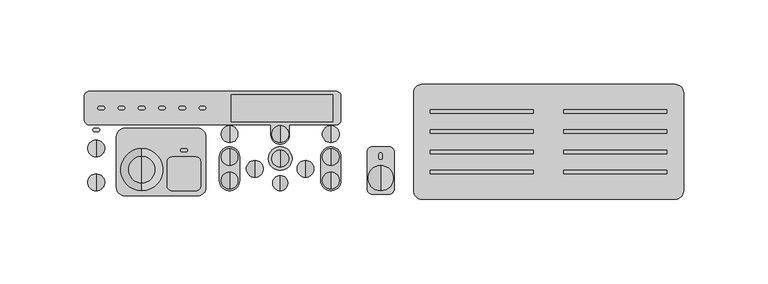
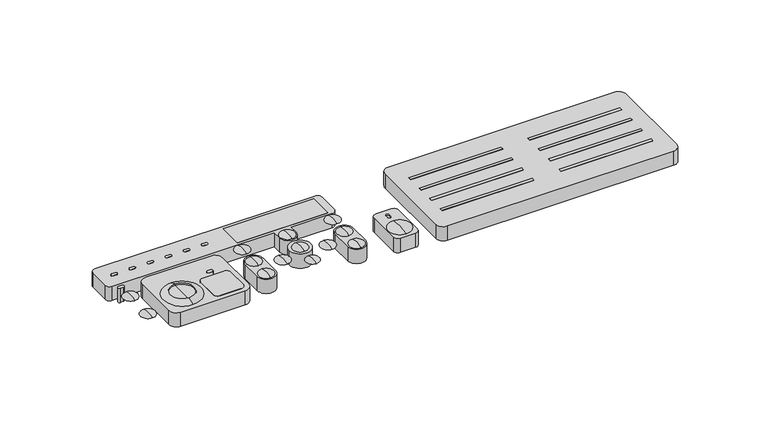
"""IFC4 building model written with IfcOpenShell, lengths in millimetres: switching device geometry, Панель управления SonarSPM : 1 зона."""

from ifc_helpers import new_model, si_unit, point, frame, frame_2d, origin, origin_with_axes, place, context, project, spatial, polyline, circle_curve, ellipse_curve, trimmed, segment, composite_curve, outline, extrude, source, transform, mapped, element, save
from ifc_brep_helpers import plane_surface, revolved_surface, advanced_brep


def switching_device_9c406ad0(model_context):
    return source(origin(), model_context, "Body", "SolidModel", [
        advanced_brep(
        [(-170.0, -3.8843649, 11.0), (-170.0, 1.1156351, 10.0), (-170.0, -8.8843649, 10.0), (-170.0, -3.8843649, 10.0)],
        [
            (0, 1, circle_curve(frame((-170.0, -3.8843649, -2.0), z_axis=(-1.0, 0.0, 0.0), x_axis=(0.0, 1.0, 0.0)), 13.0)),
            (1, 2, circle_curve(frame((-170.0, -3.8843649, 10.0), z_axis=(0.0, 0.0, 1.0), x_axis=(0.0, 1.0, 0.0)), 5.0)),
            (2, 0, circle_curve(frame((-170.0, -3.8843649, -2.0), z_axis=(-1.0, 0.0, 0.0), x_axis=(0.0, -1.0, 0.0)), 13.0)),
            (2, 1, circle_curve(frame((-170.0, -3.8843649, 10.0), z_axis=(0.0, 0.0, 1.0), x_axis=(0.0, 1.0, 0.0)), 5.0)),
            (1, 3),
            (3, 2),
        ],
        [
            revolved_surface(trimmed(ellipse_curve(frame((-170.0, -3.8843649, -2.0), z_axis=(1.0, 0.0, 0.0), x_axis=(0.0, 1.0, 0.0)), 13.0, 13.0), [point((-170.0, 1.1156351, 10.0))], [point((-170.0, -3.8843649, 11.0))], True, "CARTESIAN"), (-170.0, -3.8843649, 10.5), (0.0, 0.0, 1.0)),
            plane_surface(frame((-170.0, -3.8843649, 10.0), z_axis=(0.0, 0.0, -1.0), x_axis=(0.0, 1.0, 0.0))),
        ],
        [
            (0, [[1, 2, 3]]),
            (0, [[-3, 4, -1]]),
            (1, [[-2, 5, 6]]),
            (1, [[-4, -6, -5]]),
        ],
    ),
        advanced_brep(
        [(-170.0, -24.0, 11.0), (-170.0, -19.0, 10.0), (-170.0, -29.0, 10.0), (-170.0, -24.0, 10.0)],
        [
            (0, 1, circle_curve(frame((-170.0, -24.0, -2.0), z_axis=(-1.0, 0.0, 0.0), x_axis=(0.0, 1.0, 0.0)), 13.0)),
            (1, 2, circle_curve(frame((-170.0, -24.0, 10.0), z_axis=(0.0, 0.0, 1.0), x_axis=(0.0, 1.0, 0.0)), 5.0)),
            (2, 0, circle_curve(frame((-170.0, -24.0, -2.0), z_axis=(-1.0, 0.0, 0.0), x_axis=(0.0, -1.0, 0.0)), 13.0)),
            (2, 1, circle_curve(frame((-170.0, -24.0, 10.0), z_axis=(0.0, 0.0, 1.0), x_axis=(0.0, 1.0, 0.0)), 5.0)),
            (1, 3),
            (3, 2),
        ],
        [
            revolved_surface(trimmed(ellipse_curve(frame((-170.0, -24.0, -2.0), z_axis=(1.0, 0.0, 0.0), x_axis=(0.0, 1.0, 0.0)), 13.0, 13.0), [point((-170.0, -19.0, 10.0))], [point((-170.0, -24.0, 11.0))], True, "CARTESIAN"), (-170.0, -24.0, 10.5), (0.0, 0.0, 1.0)),
            plane_surface(frame((-170.0, -24.0, 10.0), z_axis=(0.0, 0.0, -1.0), x_axis=(0.0, 1.0, 0.0))),
        ],
        [
            (0, [[1, 2, 3]]),
            (0, [[-3, 4, -1]]),
            (1, [[-2, 5, 6]]),
            (1, [[-4, -6, -5]]),
        ],
    ),
        advanced_brep(
        [(-61.0, -20.0, 10.0), (-61.0, -29.0, 10.0), (-61.0, -24.5, 10.0), (-61.0, -24.5, 11.0)],
        [
            (0, 1, circle_curve(frame((-61.0, -24.5, 10.0), z_axis=(0.0, 0.0, -1.0), x_axis=(0.0, -1.0, 0.0)), 4.5)),
            (1, 2),
            (2, 0),
            (1, 0, circle_curve(frame((-61.0, -24.5, 10.0), z_axis=(0.0, 0.0, -1.0), x_axis=(0.0, -1.0, 0.0)), 4.5)),
            (3, 1, circle_curve(frame((-61.0, -24.5, 0.375), z_axis=(1.0, 0.0, 0.0), x_axis=(0.0, -1.0, 0.0)), 10.625)),
            (0, 3, circle_curve(frame((-61.0, -24.5, 0.375), z_axis=(1.0, 0.0, 0.0), x_axis=(0.0, 1.0, 0.0)), 10.625)),
        ],
        [
            plane_surface(frame((-61.0, -24.5, 10.0), z_axis=(0.0, 0.0, -1.0), x_axis=(0.0, -1.0, 0.0))),
            revolved_surface(trimmed(ellipse_curve(frame((-61.0, -24.5, 0.375), z_axis=(-1.0, 0.0, 0.0), x_axis=(0.0, -1.0, 0.0)), 10.625, 10.625), [point((-61.0, -29.0, 10.0))], [point((-61.0, -24.5, 11.0))], True, "CARTESIAN"), (-61.0, -24.5, 10.1443303), (0.0, 0.0, 1.0)),
        ],
        [
            (0, [[1, 2, 3]]),
            (0, [[4, -3, -2]]),
            (1, [[5, -1, 6]]),
            (1, [[-6, -4, -5]]),
        ],
    ),
        advanced_brep(
        [(-46.0, -16.0, 11.0), (-46.0, -21.0, 10.0), (-46.0, -11.0, 10.0), (-46.0, -16.0, 10.0)],
        [
            (0, 1, circle_curve(frame((-46.0, -16.0, -2.0), z_axis=(1.0, 0.0, 0.0), x_axis=(0.0, -1.0, 0.0)), 13.0)),
            (1, 2, circle_curve(frame((-46.0, -16.0, 10.0), z_axis=(0.0, 0.0, 1.0), x_axis=(0.0, -1.0, 0.0)), 5.0)),
            (2, 0, circle_curve(frame((-46.0, -16.0, -2.0), z_axis=(1.0, 0.0, 0.0), x_axis=(0.0, 1.0, 0.0)), 13.0)),
            (2, 1, circle_curve(frame((-46.0, -16.0, 10.0), z_axis=(0.0, 0.0, 1.0), x_axis=(0.0, -1.0, 0.0)), 5.0)),
            (1, 3),
            (3, 2),
        ],
        [
            revolved_surface(trimmed(ellipse_curve(frame((-46.0, -16.0, -2.0), z_axis=(-1.0, 0.0, 0.0), x_axis=(0.0, -1.0, 0.0)), 13.0, 13.0), [point((-46.0, -21.0, 10.0))], [point((-46.0, -16.0, 11.0))], True, "CARTESIAN"), (-46.0, -16.0, 10.5), (0.0, 0.0, 1.0)),
            plane_surface(frame((-46.0, -16.0, 10.0), z_axis=(0.0, 0.0, -1.0), x_axis=(0.0, -1.0, 0.0))),
        ],
        [
            (0, [[1, 2, 3]]),
            (0, [[-3, 4, -1]]),
            (1, [[-2, 5, 6]]),
            (1, [[-4, -6, -5]]),
        ],
    ),
        advanced_brep(
        [(-76.0, -11.0, 10.0), (-76.0, -21.0, 10.0), (-76.0, -16.0, 11.0), (-76.0, -16.0, 10.0)],
        [
            (0, 1, circle_curve(frame((-76.0, -16.0, 10.0), z_axis=(0.0, 0.0, 1.0), x_axis=(0.0, -1.0, 0.0)), 5.0)),
            (1, 2, circle_curve(frame((-76.0, -16.0, -2.0), z_axis=(-1.0, 0.0, 0.0), x_axis=(0.0, -1.0, 0.0)), 13.0)),
            (2, 0, circle_curve(frame((-76.0, -16.0, -2.0), z_axis=(-1.0, 0.0, 0.0), x_axis=(0.0, 1.0, 0.0)), 13.0)),
            (1, 0, circle_curve(frame((-76.0, -16.0, 10.0), z_axis=(0.0, 0.0, 1.0), x_axis=(0.0, -1.0, 0.0)), 5.0)),
            (3, 1),
            (0, 3),
        ],
        [
            revolved_surface(trimmed(ellipse_curve(frame((-76.0, -16.0, -2.0), z_axis=(1.0, 0.0, 0.0), x_axis=(0.0, -1.0, 0.0)), 13.0, 13.0), [point((-76.0, -16.0, 11.0))], [point((-76.0, -21.0, 10.0))], True, "CARTESIAN"), (-76.0, -16.0, 10.5), (0.0, 0.0, -1.0)),
            plane_surface(frame((-76.0, -16.0, 10.0), z_axis=(0.0, 0.0, -1.0), x_axis=(0.0, -1.0, 0.0))),
        ],
        [
            (0, [[1, 2, 3]]),
            (0, [[4, -3, -2]]),
            (1, [[5, -1, 6]]),
            (1, [[-6, -4, -5]]),
        ],
    ),
        advanced_brep(
        [(-31.0, 9.5, 10.0), (-31.0, -0.5, 10.0), (-31.0, 4.5, 11.0), (-31.0, 4.5, 10.0)],
        [
            (0, 1, circle_curve(frame((-31.0, 4.5, 10.0), z_axis=(0.0, 0.0, 1.0), x_axis=(0.0, -1.0, 0.0)), 5.0)),
            (1, 2, circle_curve(frame((-31.0, 4.5, -2.0), z_axis=(-1.0, 0.0, 0.0), x_axis=(0.0, -1.0, 0.0)), 13.0)),
            (2, 0, circle_curve(frame((-31.0, 4.5, -2.0), z_axis=(-1.0, 0.0, 0.0), x_axis=(0.0, 1.0, 0.0)), 13.0)),
            (1, 0, circle_curve(frame((-31.0, 4.5, 10.0), z_axis=(0.0, 0.0, 1.0), x_axis=(0.0, -1.0, 0.0)), 5.0)),
            (3, 1),
            (0, 3),
        ],
        [
            revolved_surface(trimmed(ellipse_curve(frame((-31.0, 4.5, -2.0), z_axis=(1.0, 0.0, 0.0), x_axis=(0.0, -1.0, 0.0)), 13.0, 13.0), [point((-31.0, 4.5, 11.0))], [point((-31.0, -0.5, 10.0))], True, "CARTESIAN"), (-31.0, 4.5, 10.5), (0.0, 0.0, -1.0)),
            plane_surface(frame((-31.0, 4.5, 10.0), z_axis=(0.0, 0.0, -1.0), x_axis=(0.0, -1.0, 0.0))),
        ],
        [
            (0, [[1, 2, 3]]),
            (0, [[4, -3, -2]]),
            (1, [[5, -1, 6]]),
            (1, [[-6, -4, -5]]),
        ],
    ),
        advanced_brep(
        [(-91.0, 9.5, 10.0), (-91.0, -0.5, 10.0), (-91.0, 4.5, 11.0), (-91.0, 4.5, 10.0)],
        [
            (0, 1, circle_curve(frame((-91.0, 4.5, 10.0), z_axis=(0.0, 0.0, 1.0), x_axis=(0.0, -1.0, 0.0)), 5.0)),
            (1, 2, circle_curve(frame((-91.0, 4.5, -2.0), z_axis=(-1.0, 0.0, 0.0), x_axis=(0.0, -1.0, 0.0)), 13.0)),
            (2, 0, circle_curve(frame((-91.0, 4.5, -2.0), z_axis=(-1.0, 0.0, 0.0), x_axis=(0.0, 1.0, 0.0)), 13.0)),
            (1, 0, circle_curve(frame((-91.0, 4.5, 10.0), z_axis=(0.0, 0.0, 1.0), x_axis=(0.0, -1.0, 0.0)), 5.0)),
            (3, 1),
            (0, 3),
        ],
        [
            revolved_surface(trimmed(ellipse_curve(frame((-91.0, 4.5, -2.0), z_axis=(1.0, 0.0, 0.0), x_axis=(0.0, -1.0, 0.0)), 13.0, 13.0), [point((-91.0, 4.5, 11.0))], [point((-91.0, -0.5, 10.0))], True, "CARTESIAN"), (-91.0, 4.5, 10.5), (0.0, 0.0, -1.0)),
            plane_surface(frame((-91.0, 4.5, 10.0), z_axis=(0.0, 0.0, -1.0), x_axis=(0.0, -1.0, 0.0))),
        ],
        [
            (0, [[1, 2, 3]]),
            (0, [[4, -3, -2]]),
            (1, [[5, -1, 6]]),
            (1, [[-6, -4, -5]]),
        ],
    ),
        advanced_brep(
        [(-61.0, 9.5, 10.0), (-61.0, -0.5, 10.0), (-61.0, 4.5, 11.0), (-61.0, 4.5, 10.0)],
        [
            (0, 1, circle_curve(frame((-61.0, 4.5, 10.0), z_axis=(0.0, 0.0, 1.0), x_axis=(0.0, -1.0, 0.0)), 5.0)),
            (1, 2, circle_curve(frame((-61.0, 4.5, -2.0), z_axis=(-1.0, 0.0, 0.0), x_axis=(0.0, -1.0, 0.0)), 13.0)),
            (2, 0, circle_curve(frame((-61.0, 4.5, -2.0), z_axis=(-1.0, 0.0, 0.0), x_axis=(0.0, 1.0, 0.0)), 13.0)),
            (1, 0, circle_curve(frame((-61.0, 4.5, 10.0), z_axis=(0.0, 0.0, 1.0), x_axis=(0.0, -1.0, 0.0)), 5.0)),
            (3, 1),
            (0, 3),
        ],
        [
            revolved_surface(trimmed(ellipse_curve(frame((-61.0, 4.5, -2.0), z_axis=(1.0, 0.0, 0.0), x_axis=(0.0, -1.0, 0.0)), 13.0, 13.0), [point((-61.0, 4.5, 11.0))], [point((-61.0, -0.5, 10.0))], True, "CARTESIAN"), (-61.0, 4.5, 10.5), (0.0, 0.0, -1.0)),
            plane_surface(frame((-61.0, 4.5, 10.0), z_axis=(0.0, 0.0, -1.0), x_axis=(0.0, -1.0, 0.0))),
        ],
        [
            (0, [[1, 2, 3]]),
            (0, [[4, -3, -2]]),
            (1, [[5, -1, 6]]),
            (1, [[-6, -4, -5]]),
        ],
    ),
        advanced_brep(
        [(-61.0, -10.0, 11.0), (-61.0, -5.0, 10.0), (-61.0, -15.0, 10.0), (-61.0, -10.0, 10.0)],
        [
            (0, 1, circle_curve(frame((-61.0, -10.0, -2.0), z_axis=(-1.0, 0.0, 0.0), x_axis=(0.0, 1.0, 0.0)), 13.0)),
            (1, 2, circle_curve(frame((-61.0, -10.0, 10.0), z_axis=(0.0, 0.0, 1.0), x_axis=(0.0, 1.0, 0.0)), 5.0)),
            (2, 0, circle_curve(frame((-61.0, -10.0, -2.0), z_axis=(-1.0, 0.0, 0.0), x_axis=(0.0, -1.0, 0.0)), 13.0)),
            (2, 1, circle_curve(frame((-61.0, -10.0, 10.0), z_axis=(0.0, 0.0, 1.0), x_axis=(0.0, 1.0, 0.0)), 5.0)),
            (1, 3),
            (3, 2),
        ],
        [
            revolved_surface(trimmed(ellipse_curve(frame((-61.0, -10.0, -2.0), z_axis=(1.0, 0.0, 0.0), x_axis=(0.0, 1.0, 0.0)), 13.0, 13.0), [point((-61.0, -5.0, 10.0))], [point((-61.0, -10.0, 11.0))], True, "CARTESIAN"), (-61.0, -10.0, 10.5), (0.0, 0.0, 1.0)),
            plane_surface(frame((-61.0, -10.0, 10.0), z_axis=(0.0, 0.0, -1.0), x_axis=(0.0, 1.0, 0.0))),
        ],
        [
            (0, [[1, 2, 3]]),
            (0, [[-3, 4, -1]]),
            (1, [[-2, 5, 6]]),
            (1, [[-4, -6, -5]]),
        ],
    ),
        advanced_brep(
        [(-91.0, -9.0, 11.0), (-91.0, -4.0, 10.0), (-91.0, -14.0, 10.0), (-91.0, -9.0, 10.0)],
        [
            (0, 1, circle_curve(frame((-91.0, -9.0, -2.0), z_axis=(-1.0, 0.0, 0.0), x_axis=(0.0, 1.0, 0.0)), 13.0)),
            (1, 2, circle_curve(frame((-91.0, -9.0, 10.0), z_axis=(0.0, 0.0, 1.0), x_axis=(0.0, 1.0, 0.0)), 5.0)),
            (2, 0, circle_curve(frame((-91.0, -9.0, -2.0), z_axis=(-1.0, 0.0, 0.0), x_axis=(0.0, -1.0, 0.0)), 13.0)),
            (2, 1, circle_curve(frame((-91.0, -9.0, 10.0), z_axis=(0.0, 0.0, 1.0), x_axis=(0.0, 1.0, 0.0)), 5.0)),
            (1, 3),
            (3, 2),
        ],
        [
            revolved_surface(trimmed(ellipse_curve(frame((-91.0, -9.0, -2.0), z_axis=(1.0, 0.0, 0.0), x_axis=(0.0, 1.0, 0.0)), 13.0, 13.0), [point((-91.0, -4.0, 10.0))], [point((-91.0, -9.0, 11.0))], True, "CARTESIAN"), (-91.0, -9.0, 10.5), (0.0, 0.0, 1.0)),
            plane_surface(frame((-91.0, -9.0, 10.0), z_axis=(0.0, 0.0, -1.0), x_axis=(0.0, 1.0, 0.0))),
        ],
        [
            (0, [[1, 2, 3]]),
            (0, [[-3, 4, -1]]),
            (1, [[-2, 5, 6]]),
            (1, [[-4, -6, -5]]),
        ],
    ),
        advanced_brep(
        [(-91.0, -18.0, 10.0), (-91.0, -28.0, 10.0), (-91.0, -23.0, 11.0), (-91.0, -23.0, 10.0)],
        [
            (0, 1, circle_curve(frame((-91.0, -23.0, 10.0), z_axis=(0.0, 0.0, 1.0), x_axis=(0.0, -1.0, 0.0)), 5.0)),
            (1, 2, circle_curve(frame((-91.0, -23.0, -2.0), z_axis=(-1.0, 0.0, 0.0), x_axis=(0.0, -1.0, 0.0)), 13.0)),
            (2, 0, circle_curve(frame((-91.0, -23.0, -2.0), z_axis=(-1.0, 0.0, 0.0), x_axis=(0.0, 1.0, 0.0)), 13.0)),
            (1, 0, circle_curve(frame((-91.0, -23.0, 10.0), z_axis=(0.0, 0.0, 1.0), x_axis=(0.0, -1.0, 0.0)), 5.0)),
            (3, 1),
            (0, 3),
        ],
        [
            revolved_surface(trimmed(ellipse_curve(frame((-91.0, -23.0, -2.0), z_axis=(1.0, 0.0, 0.0), x_axis=(0.0, -1.0, 0.0)), 13.0, 13.0), [point((-91.0, -23.0, 11.0))], [point((-91.0, -28.0, 10.0))], True, "CARTESIAN"), (-91.0, -23.0, 10.5), (0.0, 0.0, -1.0)),
            plane_surface(frame((-91.0, -23.0, 10.0), z_axis=(0.0, 0.0, -1.0), x_axis=(0.0, -1.0, 0.0))),
        ],
        [
            (0, [[1, 2, 3]]),
            (0, [[4, -3, -2]]),
            (1, [[5, -1, 6]]),
            (1, [[-6, -4, -5]]),
        ],
    ),
        advanced_brep(
        [(-31.0, -9.0, 11.0), (-31.0, -4.0, 10.0), (-31.0, -14.0, 10.0), (-31.0, -9.0, 10.0)],
        [
            (0, 1, circle_curve(frame((-31.0, -9.0, -2.0), z_axis=(-1.0, 0.0, 0.0), x_axis=(0.0, 1.0, 0.0)), 13.0)),
            (1, 2, circle_curve(frame((-31.0, -9.0, 10.0), z_axis=(0.0, 0.0, 1.0), x_axis=(0.0, 1.0, 0.0)), 5.0)),
            (2, 0, circle_curve(frame((-31.0, -9.0, -2.0), z_axis=(-1.0, 0.0, 0.0), x_axis=(0.0, -1.0, 0.0)), 13.0)),
            (2, 1, circle_curve(frame((-31.0, -9.0, 10.0), z_axis=(0.0, 0.0, 1.0), x_axis=(0.0, 1.0, 0.0)), 5.0)),
            (1, 3),
            (3, 2),
        ],
        [
            revolved_surface(trimmed(ellipse_curve(frame((-31.0, -9.0, -2.0), z_axis=(1.0, 0.0, 0.0), x_axis=(0.0, 1.0, 0.0)), 13.0, 13.0), [point((-31.0, -4.0, 10.0))], [point((-31.0, -9.0, 11.0))], True, "CARTESIAN"), (-31.0, -9.0, 10.5), (0.0, 0.0, 1.0)),
            plane_surface(frame((-31.0, -9.0, 10.0), z_axis=(0.0, 0.0, -1.0), x_axis=(0.0, 1.0, 0.0))),
        ],
        [
            (0, [[1, 2, 3]]),
            (0, [[-3, 4, -1]]),
            (1, [[-2, 5, 6]]),
            (1, [[-4, -6, -5]]),
        ],
    ),
        advanced_brep(
        [(-31.0, -18.0, 10.0), (-31.0, -28.0, 10.0), (-31.0, -23.0, 11.0), (-31.0, -23.0, 10.0)],
        [
            (0, 1, circle_curve(frame((-31.0, -23.0, 10.0), z_axis=(0.0, 0.0, 1.0), x_axis=(0.0, -1.0, 0.0)), 5.0)),
            (1, 2, circle_curve(frame((-31.0, -23.0, -2.0), z_axis=(-1.0, 0.0, 0.0), x_axis=(0.0, -1.0, 0.0)), 13.0)),
            (2, 0, circle_curve(frame((-31.0, -23.0, -2.0), z_axis=(-1.0, 0.0, 0.0), x_axis=(0.0, 1.0, 0.0)), 13.0)),
            (1, 0, circle_curve(frame((-31.0, -23.0, 10.0), z_axis=(0.0, 0.0, 1.0), x_axis=(0.0, -1.0, 0.0)), 5.0)),
            (3, 1),
            (0, 3),
        ],
        [
            revolved_surface(trimmed(ellipse_curve(frame((-31.0, -23.0, -2.0), z_axis=(1.0, 0.0, 0.0), x_axis=(0.0, -1.0, 0.0)), 13.0, 13.0), [point((-31.0, -23.0, 11.0))], [point((-31.0, -28.0, 10.0))], True, "CARTESIAN"), (-31.0, -23.0, 10.5), (0.0, 0.0, -1.0)),
            plane_surface(frame((-31.0, -23.0, 10.0), z_axis=(0.0, 0.0, -1.0), x_axis=(0.0, -1.0, 0.0))),
        ],
        [
            (0, [[1, 2, 3]]),
            (0, [[4, -3, -2]]),
            (1, [[5, -1, 6]]),
            (1, [[-6, -4, -5]]),
        ],
    ),
        advanced_brep(
        [(-1.5, -14.0, 10.0), (-1.5, -29.0, 10.0), (-1.5, -21.5, 11.0), (-1.5, -21.5, 10.0)],
        [
            (0, 1, circle_curve(frame((-1.5, -21.5, 10.0), z_axis=(0.0, 0.0, 1.0), x_axis=(0.0, -1.0, 0.0)), 7.5)),
            (1, 2, circle_curve(frame((-1.5, -21.5, -17.625), z_axis=(-1.0, 0.0, 0.0), x_axis=(0.0, -1.0, 0.0)), 28.625)),
            (2, 0, circle_curve(frame((-1.5, -21.5, -17.625), z_axis=(-1.0, 0.0, 0.0), x_axis=(0.0, 1.0, 0.0)), 28.625)),
            (1, 0, circle_curve(frame((-1.5, -21.5, 10.0), z_axis=(0.0, 0.0, 1.0), x_axis=(0.0, -1.0, 0.0)), 7.5)),
            (3, 1),
            (0, 3),
        ],
        [
            revolved_surface(trimmed(ellipse_curve(frame((-1.5, -21.5, -17.625), z_axis=(1.0, 0.0, 0.0), x_axis=(0.0, -1.0, 0.0)), 28.625, 28.625), [point((-1.5, -21.5, 11.0))], [point((-1.5, -29.0, 10.0))], True, "CARTESIAN"), (-1.5, -21.5, 10.5), (0.0, 0.0, -1.0)),
            plane_surface(frame((-1.5, -21.5, 10.0), z_axis=(0.0, 0.0, -1.0), x_axis=(0.0, -1.0, 0.0))),
        ],
        [
            (0, [[1, 2, 3]]),
            (0, [[4, -3, -2]]),
            (1, [[5, -1, 6]]),
            (1, [[-6, -4, -5]]),
        ],
    ),
        advanced_brep(
        [(-143.0, -16.5, 10.0), (-143.0, -4.0, 10.0), (-143.0, -29.0, 10.0), (-143.0, -8.5, 12.0), (-143.0, -24.5, 12.0), (-143.0, -8.5, 11.0), (-143.0, -24.5, 11.0), (-143.0, -16.5, 11.0)],
        [
            (0, 1),
            (1, 2, circle_curve(frame((-143.0, -16.5, 10.0), z_axis=(0.0, 0.0, -1.0), x_axis=(0.0, 1.0, 0.0)), 12.5)),
            (2, 0),
            (2, 1, circle_curve(frame((-143.0, -16.5, 10.0), z_axis=(0.0, 0.0, -1.0), x_axis=(0.0, 1.0, 0.0)), 12.5)),
            (1, 3),
            (3, 4, circle_curve(frame((-143.0, -16.5, 12.0), z_axis=(0.0, 0.0, -1.0), x_axis=(0.0, 1.0, 0.0)), 8.0)),
            (4, 2),
            (4, 3, circle_curve(frame((-143.0, -16.5, 12.0), z_axis=(0.0, 0.0, -1.0), x_axis=(0.0, 1.0, 0.0)), 8.0)),
            (3, 5),
            (5, 6, circle_curve(frame((-143.0, -16.5, 11.0), z_axis=(0.0, 0.0, -1.0), x_axis=(0.0, 1.0, 0.0)), 8.0)),
            (6, 4),
            (6, 5, circle_curve(frame((-143.0, -16.5, 11.0), z_axis=(0.0, 0.0, -1.0), x_axis=(0.0, 1.0, 0.0)), 8.0)),
            (5, 7),
            (7, 6),
        ],
        [
            plane_surface(frame((-143.0, -16.5, 10.0), z_axis=(0.0, 0.0, -1.0), x_axis=(0.0, 1.0, 0.0))),
            revolved_surface(polyline([(-143.0, -8.5, 12.0), (-143.0, -4.0, 10.0)]), (-143.0, -16.5, 10.0), (0.0, 0.0, -1.0)),
            revolved_surface(polyline([(-143.0, -8.5, 11.0), (-143.0, -8.5, 12.0)]), (-143.0, -16.5, 10.0), (0.0, 0.0, -1.0)),
            plane_surface(frame((-143.0, -16.5, 11.0), z_axis=(0.0, 0.0, 1.0), x_axis=(0.0, 1.0, 0.0))),
        ],
        [
            (0, [[1, 2, 3]]),
            (0, [[-3, 4, -1]]),
            (1, [[-2, 5, 6, 7]]),
            (1, [[-4, -7, 8, -5]]),
            (2, [[-6, 9, 10, 11]]),
            (2, [[-8, -11, 12, -9]]),
            (3, [[-10, 13, 14]]),
            (3, [[-12, -14, -13]]),
        ],
    ),
        extrude(outline(polyline([(107.0, 19.0), (168.0, 19.0), (168.0, 17.0), (107.0, 17.0), (107.0, 19.0)])), origin_with_axes(), (0.0, 0.0, 1.0), 10.0),
        extrude(outline(polyline([(107.0, 7.0), (168.0, 7.0), (168.0, 5.0), (107.0, 5.0), (107.0, 7.0)])), origin_with_axes(), (0.0, 0.0, 1.0), 10.0),
        extrude(outline(polyline([(107.0, -5.0), (168.0, -5.0), (168.0, -7.0), (107.0, -7.0), (107.0, -5.0)])), origin_with_axes(), (0.0, 0.0, 1.0), 10.0),
        extrude(outline(polyline([(107.0, -17.0), (168.0, -17.0), (168.0, -19.0), (107.0, -19.0), (107.0, -17.0)])), origin_with_axes(), (0.0, 0.0, 1.0), 10.0),
        extrude(outline(polyline([(28.0, 19.0), (89.0, 19.0), (89.0, 17.0), (28.0, 17.0), (28.0, 19.0)])), origin_with_axes(), (0.0, 0.0, 1.0), 10.0),
        extrude(outline(polyline([(28.0, 7.0), (89.0, 7.0), (89.0, 5.0), (28.0, 5.0), (28.0, 7.0)])), origin_with_axes(), (0.0, 0.0, 1.0), 10.0),
        extrude(outline(polyline([(28.0, -5.0), (89.0, -5.0), (89.0, -7.0), (28.0, -7.0), (28.0, -5.0)])), origin_with_axes(), (0.0, 0.0, 1.0), 10.0),
        extrude(outline(polyline([(28.0, -17.0), (89.0, -17.0), (89.0, -19.0), (28.0, -19.0), (28.0, -17.0)])), origin_with_axes(), (0.0, 0.0, 1.0), 10.0),
        extrude(outline(composite_curve([segment(trimmed(circle_curve(frame_2d((173.0, 29.0)), 5.0), [point((173.0, 34.0))], [point((178.0, 29.0))], False, "CARTESIAN"), True, "CONTINUOUS"), segment(polyline([(178.0, 29.0), (178.0, -29.0)]), True, "CONTINUOUS"), segment(trimmed(circle_curve(frame_2d((173.0, -29.0)), 5.0), [point((178.0, -29.0))], [point((173.0, -34.0))], False, "CARTESIAN"), True, "CONTINUOUS"), segment(polyline([(173.0, -34.0), (23.0, -34.0)]), True, "CONTINUOUS"), segment(trimmed(circle_curve(frame_2d((23.0, -29.0)), 5.0), [point((23.0, -34.0))], [point((18.0, -29.0))], False, "CARTESIAN"), True, "CONTINUOUS"), segment(polyline([(18.0, -29.0), (18.0, 29.0)]), True, "CONTINUOUS"), segment(trimmed(circle_curve(frame_2d((23.0, 29.0)), 5.0), [point((18.0, 29.0))], [point((23.0, 34.0))], False, "CARTESIAN"), True, "CONTINUOUS"), segment(polyline([(23.0, 34.0), (173.0, 34.0)]), True, "CONTINUOUS")], self_intersect=False), holes=[polyline([(107.0, 19.0), (107.0, 17.0), (168.0, 17.0), (168.0, 19.0), (107.0, 19.0)]), polyline([(107.0, 7.0), (107.0, 5.0), (168.0, 5.0), (168.0, 7.0), (107.0, 7.0)]), polyline([(107.0, -5.0), (107.0, -7.0), (168.0, -7.0), (168.0, -5.0), (107.0, -5.0)]), polyline([(107.0, -17.0), (107.0, -19.0), (168.0, -19.0), (168.0, -17.0), (107.0, -17.0)]), polyline([(28.0, 19.0), (28.0, 17.0), (89.0, 17.0), (89.0, 19.0), (28.0, 19.0)]), polyline([(28.0, 7.0), (28.0, 5.0), (89.0, 5.0), (89.0, 7.0), (28.0, 7.0)]), polyline([(28.0, -5.0), (28.0, -7.0), (89.0, -7.0), (89.0, -5.0), (28.0, -5.0)]), polyline([(28.0, -17.0), (28.0, -19.0), (89.0, -19.0), (89.0, -17.0), (28.0, -17.0)])]), origin_with_axes(), (0.0, 0.0, 1.0), 10.0),
        extrude(outline(composite_curve([segment(trimmed(circle_curve(frame_2d((-1.5, -7.5)), 1.0), [point((-2.5, -7.5))], [point((-0.5, -7.5))], False, "CARTESIAN"), True, "CONTINUOUS"), segment(polyline([(-0.5, -7.5), (-0.5, -9.5)]), True, "CONTINUOUS"), segment(trimmed(circle_curve(frame_2d((-1.5, -9.5)), 1.0), [point((-0.5, -9.5))], [point((-2.5, -9.5))], False, "CARTESIAN"), True, "CONTINUOUS"), segment(polyline([(-2.5, -9.5), (-2.5, -7.5)]), True, "CONTINUOUS")], self_intersect=False)), origin_with_axes(), (0.0, 0.0, 1.0), 9.0),
        extrude(outline(composite_curve([segment(trimmed(circle_curve(frame_2d((3.5, -6.0)), 3.0), [point((3.5, -3.0))], [point((6.5, -6.0))], False, "CARTESIAN"), True, "CONTINUOUS"), segment(polyline([(6.5, -6.0), (6.5, -28.0)]), True, "CONTINUOUS"), segment(trimmed(circle_curve(frame_2d((3.5, -28.0)), 3.0), [point((6.5, -28.0))], [point((3.5, -31.0))], False, "CARTESIAN"), True, "CONTINUOUS"), segment(polyline([(3.5, -31.0), (-6.5, -31.0)]), True, "CONTINUOUS"), segment(trimmed(circle_curve(frame_2d((-6.5, -28.0)), 3.0), [point((-6.5, -31.0))], [point((-9.5, -28.0))], False, "CARTESIAN"), True, "CONTINUOUS"), segment(polyline([(-9.5, -28.0), (-9.5, -6.0)]), True, "CONTINUOUS"), segment(trimmed(circle_curve(frame_2d((-6.5, -6.0)), 3.0), [point((-9.5, -6.0))], [point((-6.5, -3.0))], False, "CARTESIAN"), True, "CONTINUOUS"), segment(polyline([(-6.5, -3.0), (3.5, -3.0)]), True, "CONTINUOUS")], self_intersect=False), holes=[composite_curve([segment(trimmed(circle_curve(frame_2d((-1.5, -9.5)), 1.0), [point((-2.5, -9.5))], [point((-0.5, -9.5))], True, "CARTESIAN"), True, "CONTINUOUS"), segment(polyline([(-0.5, -9.5), (-0.5, -7.5)]), True, "CONTINUOUS"), segment(trimmed(circle_curve(frame_2d((-1.5, -7.5)), 1.0), [point((-0.5, -7.5))], [point((-2.5, -7.5))], True, "CARTESIAN"), True, "CONTINUOUS"), segment(polyline([(-2.5, -7.5), (-2.5, -9.5)]), True, "CONTINUOUS")], self_intersect=False)]), origin_with_axes(), (0.0, 0.0, 1.0), 10.0),
        extrude(outline(composite_curve([segment(polyline([(-125.0, -9.0), (-111.0, -9.0)]), True, "CONTINUOUS"), segment(trimmed(circle_curve(frame_2d((-111.0, -12.0)), 3.0), [point((-111.0, -9.0))], [point((-108.0, -12.0))], False, "CARTESIAN"), True, "CONTINUOUS"), segment(polyline([(-108.0, -12.0), (-108.0, -26.0)]), True, "CONTINUOUS"), segment(trimmed(circle_curve(frame_2d((-111.0, -26.0)), 3.0), [point((-108.0, -26.0))], [point((-111.0, -29.0))], False, "CARTESIAN"), True, "CONTINUOUS"), segment(polyline([(-111.0, -29.0), (-125.0, -29.0)]), True, "CONTINUOUS"), segment(trimmed(circle_curve(frame_2d((-125.0, -26.0)), 3.0), [point((-125.0, -29.0))], [point((-128.0, -26.0))], False, "CARTESIAN"), True, "CONTINUOUS"), segment(polyline([(-128.0, -26.0), (-128.0, -12.0)]), True, "CONTINUOUS"), segment(trimmed(circle_curve(frame_2d((-125.0, -12.0)), 3.0), [point((-128.0, -12.0))], [point((-125.0, -9.0))], False, "CARTESIAN"), True, "CONTINUOUS")], self_intersect=False)), origin_with_axes(), (0.0, 0.0, 1.0), 10.0),
        extrude(outline(composite_curve([segment(polyline([(-119.0, -4.0), (-117.0, -4.0)]), True, "CONTINUOUS"), segment(trimmed(circle_curve(frame_2d((-117.0, -5.0)), 1.0), [point((-117.0, -4.0))], [point((-117.0, -6.0))], False, "CARTESIAN"), True, "CONTINUOUS"), segment(polyline([(-117.0, -6.0), (-119.0, -6.0)]), True, "CONTINUOUS"), segment(trimmed(circle_curve(frame_2d((-119.0, -5.0)), 1.0), [point((-119.0, -6.0))], [point((-119.0, -4.0))], False, "CARTESIAN"), True, "CONTINUOUS")], self_intersect=False)), origin_with_axes(), (0.0, 0.0, 1.0), 10.0),
        extrude(outline(composite_curve([segment(polyline([(-153.0, 8.0), (-110.0, 8.0)]), True, "CONTINUOUS"), segment(trimmed(circle_curve(frame_2d((-110.0, 3.0)), 5.0), [point((-110.0, 8.0))], [point((-105.0, 3.0))], False, "CARTESIAN"), True, "CONTINUOUS"), segment(polyline([(-105.0, 3.0), (-105.0, -27.0)]), True, "CONTINUOUS"), segment(trimmed(circle_curve(frame_2d((-110.0, -27.0)), 5.0), [point((-105.0, -27.0))], [point((-110.0, -32.0))], False, "CARTESIAN"), True, "CONTINUOUS"), segment(polyline([(-110.0, -32.0), (-153.0, -32.0)]), True, "CONTINUOUS"), segment(trimmed(circle_curve(frame_2d((-153.0, -27.0)), 5.0), [point((-153.0, -32.0))], [point((-158.0, -27.0))], False, "CARTESIAN"), True, "CONTINUOUS"), segment(polyline([(-158.0, -27.0), (-158.0, 3.0)]), True, "CONTINUOUS"), segment(trimmed(circle_curve(frame_2d((-153.0, 3.0)), 5.0), [point((-158.0, 3.0))], [point((-153.0, 8.0))], False, "CARTESIAN"), True, "CONTINUOUS")], self_intersect=False), holes=[composite_curve([segment(polyline([(-111.0, -9.0), (-125.0, -9.0)]), True, "CONTINUOUS"), segment(trimmed(circle_curve(frame_2d((-125.0, -12.0)), 3.0), [point((-125.0, -9.0))], [point((-128.0, -12.0))], True, "CARTESIAN"), True, "CONTINUOUS"), segment(polyline([(-128.0, -12.0), (-128.0, -26.0)]), True, "CONTINUOUS"), segment(trimmed(circle_curve(frame_2d((-125.0, -26.0)), 3.0), [point((-128.0, -26.0))], [point((-125.0, -29.0))], True, "CARTESIAN"), True, "CONTINUOUS"), segment(polyline([(-125.0, -29.0), (-111.0, -29.0)]), True, "CONTINUOUS"), segment(trimmed(circle_curve(frame_2d((-111.0, -26.0)), 3.0), [point((-111.0, -29.0))], [point((-108.0, -26.0))], True, "CARTESIAN"), True, "CONTINUOUS"), segment(polyline([(-108.0, -26.0), (-108.0, -12.0)]), True, "CONTINUOUS"), segment(trimmed(circle_curve(frame_2d((-111.0, -12.0)), 3.0), [point((-108.0, -12.0))], [point((-111.0, -9.0))], True, "CARTESIAN"), True, "CONTINUOUS")], self_intersect=False), composite_curve([segment(polyline([(-119.0, -6.0), (-117.0, -6.0)]), True, "CONTINUOUS"), segment(trimmed(circle_curve(frame_2d((-117.0, -5.0)), 1.0), [point((-117.0, -6.0))], [point((-117.0, -4.0))], True, "CARTESIAN"), True, "CONTINUOUS"), segment(polyline([(-117.0, -4.0), (-119.0, -4.0)]), True, "CONTINUOUS"), segment(trimmed(circle_curve(frame_2d((-119.0, -5.0)), 1.0), [point((-119.0, -4.0))], [point((-119.0, -6.0))], True, "CARTESIAN"), True, "CONTINUOUS")], self_intersect=False)]), origin_with_axes(), (0.0, 0.0, 1.0), 10.0),
        extrude(outline(composite_curve([segment(trimmed(circle_curve(frame_2d((-91.0, -9.0)), 6.0), [point((-97.0, -9.0))], [point((-85.0, -9.0))], False, "CARTESIAN"), True, "CONTINUOUS"), segment(polyline([(-85.0, -9.0), (-85.0, -23.0)]), True, "CONTINUOUS"), segment(trimmed(circle_curve(frame_2d((-91.0, -23.0)), 6.0), [point((-85.0, -23.0))], [point((-97.0, -23.0))], False, "CARTESIAN"), True, "CONTINUOUS"), segment(polyline([(-97.0, -23.0), (-97.0, -9.0)]), True, "CONTINUOUS")], self_intersect=False)), origin_with_axes(), (0.0, 0.0, 1.0), 10.0),
        extrude(outline(composite_curve([segment(trimmed(circle_curve(frame_2d((-61.0, -10.0)), 7.0), [point((-54.0, -10.0))], [point((-68.0, -10.0))], False, "CARTESIAN"), True, "CONTINUOUS"), segment(trimmed(circle_curve(frame_2d((-61.0, -10.0)), 7.0), [point((-68.0, -10.0))], [point((-54.0, -10.0))], False, "CARTESIAN"), True, "CONTINUOUS")], self_intersect=False)), origin_with_axes(), (0.0, 0.0, 1.0), 10.0),
        extrude(outline(composite_curve([segment(polyline([(-37.0, -23.0), (-37.0, -9.0)]), True, "CONTINUOUS"), segment(trimmed(circle_curve(frame_2d((-31.0, -9.0)), 6.0), [point((-37.0, -9.0))], [point((-25.0, -9.0))], False, "CARTESIAN"), True, "CONTINUOUS"), segment(polyline([(-25.0, -9.0), (-25.0, -23.0)]), True, "CONTINUOUS"), segment(trimmed(circle_curve(frame_2d((-31.0, -23.0)), 6.0), [point((-25.0, -23.0))], [point((-37.0, -23.0))], False, "CARTESIAN"), True, "CONTINUOUS")], self_intersect=False)), origin_with_axes(), (0.0, 0.0, 1.0), 10.0),
        extrude(outline(composite_curve([segment(polyline([(-168.0, 21.0), (-166.0, 21.0)]), True, "CONTINUOUS"), segment(trimmed(circle_curve(frame_2d((-166.0, 20.0)), 1.0), [point((-166.0, 21.0))], [point((-166.0, 19.0))], False, "CARTESIAN"), True, "CONTINUOUS"), segment(polyline([(-166.0, 19.0), (-168.0, 19.0)]), True, "CONTINUOUS"), segment(trimmed(circle_curve(frame_2d((-168.0, 20.0)), 1.0), [point((-168.0, 19.0))], [point((-168.0, 21.0))], False, "CARTESIAN"), True, "CONTINUOUS")], self_intersect=False)), origin_with_axes(), (0.0, 0.0, 1.0), 10.0),
        extrude(outline(composite_curve([segment(polyline([(-156.0, 21.0), (-154.0, 21.0)]), True, "CONTINUOUS"), segment(trimmed(circle_curve(frame_2d((-154.0, 20.0)), 1.0), [point((-154.0, 21.0))], [point((-154.0, 19.0))], False, "CARTESIAN"), True, "CONTINUOUS"), segment(polyline([(-154.0, 19.0), (-156.0, 19.0)]), True, "CONTINUOUS"), segment(trimmed(circle_curve(frame_2d((-156.0, 20.0)), 1.0), [point((-156.0, 19.0))], [point((-156.0, 21.0))], False, "CARTESIAN"), True, "CONTINUOUS")], self_intersect=False)), origin_with_axes(), (0.0, 0.0, 1.0), 10.0),
        extrude(outline(composite_curve([segment(polyline([(-144.0, 21.0), (-142.0, 21.0)]), True, "CONTINUOUS"), segment(trimmed(circle_curve(frame_2d((-142.0, 20.0)), 1.0), [point((-142.0, 21.0))], [point((-142.0, 19.0))], False, "CARTESIAN"), True, "CONTINUOUS"), segment(polyline([(-142.0, 19.0), (-144.0, 19.0)]), True, "CONTINUOUS"), segment(trimmed(circle_curve(frame_2d((-144.0, 20.0)), 1.0), [point((-144.0, 19.0))], [point((-144.0, 21.0))], False, "CARTESIAN"), True, "CONTINUOUS")], self_intersect=False)), origin_with_axes(), (0.0, 0.0, 1.0), 10.0),
        extrude(outline(composite_curve([segment(polyline([(-132.0, 21.0), (-130.0, 21.0)]), True, "CONTINUOUS"), segment(trimmed(circle_curve(frame_2d((-130.0, 20.0)), 1.0), [point((-130.0, 21.0))], [point((-130.0, 19.0))], False, "CARTESIAN"), True, "CONTINUOUS"), segment(polyline([(-130.0, 19.0), (-132.0, 19.0)]), True, "CONTINUOUS"), segment(trimmed(circle_curve(frame_2d((-132.0, 20.0)), 1.0), [point((-132.0, 19.0))], [point((-132.0, 21.0))], False, "CARTESIAN"), True, "CONTINUOUS")], self_intersect=False)), origin_with_axes(), (0.0, 0.0, 1.0), 10.0),
        extrude(outline(composite_curve([segment(polyline([(-120.0, 21.0), (-118.0, 21.0)]), True, "CONTINUOUS"), segment(trimmed(circle_curve(frame_2d((-118.0, 20.0)), 1.0), [point((-118.0, 21.0))], [point((-118.0, 19.0))], False, "CARTESIAN"), True, "CONTINUOUS"), segment(polyline([(-118.0, 19.0), (-120.0, 19.0)]), True, "CONTINUOUS"), segment(trimmed(circle_curve(frame_2d((-120.0, 20.0)), 1.0), [point((-120.0, 19.0))], [point((-120.0, 21.0))], False, "CARTESIAN"), True, "CONTINUOUS")], self_intersect=False)), origin_with_axes(), (0.0, 0.0, 1.0), 10.0),
        extrude(outline(composite_curve([segment(polyline([(-108.0, 21.0), (-106.0, 21.0)]), True, "CONTINUOUS"), segment(trimmed(circle_curve(frame_2d((-106.0, 20.0)), 1.0), [point((-106.0, 21.0))], [point((-106.0, 19.0))], False, "CARTESIAN"), True, "CONTINUOUS"), segment(polyline([(-106.0, 19.0), (-108.0, 19.0)]), True, "CONTINUOUS"), segment(trimmed(circle_curve(frame_2d((-108.0, 20.0)), 1.0), [point((-108.0, 19.0))], [point((-108.0, 21.0))], False, "CARTESIAN"), True, "CONTINUOUS")], self_intersect=False)), origin_with_axes(), (0.0, 0.0, 1.0), 10.0),
        extrude(outline(composite_curve([segment(trimmed(circle_curve(frame_2d((-169.0, 7.0)), 1.0), [point((-169.0, 8.0))], [point((-169.0, 6.0))], False, "CARTESIAN"), True, "CONTINUOUS"), segment(polyline([(-169.0, 6.0), (-171.0, 6.0)]), True, "CONTINUOUS"), segment(trimmed(circle_curve(frame_2d((-171.0, 7.0)), 1.0), [point((-171.0, 6.0))], [point((-171.0, 8.0))], False, "CARTESIAN"), True, "CONTINUOUS"), segment(polyline([(-171.0, 8.0), (-169.0, 8.0)]), True, "CONTINUOUS")], self_intersect=False)), origin_with_axes(), (0.0, 0.0, 1.0), 10.0),
        extrude(outline(polyline([(-30.0, 28.0), (-30.0, 12.0), (-90.0, 12.0), (-90.0, 28.0), (-30.0, 28.0)])), origin_with_axes(), (0.0, 0.0, 1.0), 10.0),
        extrude(outline(composite_curve([segment(polyline([(-174.0, 30.0), (-28.0, 30.0)]), True, "CONTINUOUS"), segment(trimmed(circle_curve(frame_2d((-28.0, 27.0)), 3.0), [point((-28.0, 30.0))], [point((-25.0, 27.0))], False, "CARTESIAN"), True, "CONTINUOUS"), segment(polyline([(-25.0, 27.0), (-25.0, 13.0)]), True, "CONTINUOUS"), segment(trimmed(circle_curve(frame_2d((-28.0, 13.0)), 3.0), [point((-25.0, 13.0))], [point((-28.0, 10.0))], False, "CARTESIAN"), True, "CONTINUOUS"), segment(polyline([(-28.0, 10.0), (-55.5, 10.0), (-55.5, 4.0)]), True, "CONTINUOUS"), segment(trimmed(circle_curve(frame_2d((-61.0, 4.0)), 5.5), [point((-55.5, 4.0))], [point((-66.5, 4.0))], False, "CARTESIAN"), True, "CONTINUOUS"), segment(polyline([(-66.5, 4.0), (-66.5, 10.0), (-174.0, 10.0)]), True, "CONTINUOUS"), segment(trimmed(circle_curve(frame_2d((-174.0, 13.0)), 3.0), [point((-174.0, 10.0))], [point((-177.0, 13.0))], False, "CARTESIAN"), True, "CONTINUOUS"), segment(polyline([(-177.0, 13.0), (-177.0, 27.0)]), True, "CONTINUOUS"), segment(trimmed(circle_curve(frame_2d((-174.0, 27.0)), 3.0), [point((-177.0, 27.0))], [point((-174.0, 30.0))], False, "CARTESIAN"), True, "CONTINUOUS")], self_intersect=False), holes=[polyline([(-90.0, 28.0), (-90.0, 12.0), (-30.0, 12.0), (-30.0, 28.0), (-90.0, 28.0)]), composite_curve([segment(trimmed(circle_curve(frame_2d((-166.0, 20.0)), 1.0), [point((-166.0, 19.0))], [point((-166.0, 21.0))], True, "CARTESIAN"), True, "CONTINUOUS"), segment(polyline([(-166.0, 21.0), (-168.0, 21.0)]), True, "CONTINUOUS"), segment(trimmed(circle_curve(frame_2d((-168.0, 20.0)), 1.0), [point((-168.0, 21.0))], [point((-168.0, 19.0))], True, "CARTESIAN"), True, "CONTINUOUS"), segment(polyline([(-168.0, 19.0), (-166.0, 19.0)]), True, "CONTINUOUS")], self_intersect=False), composite_curve([segment(trimmed(circle_curve(frame_2d((-154.0, 20.0)), 1.0), [point((-154.0, 19.0))], [point((-154.0, 21.0))], True, "CARTESIAN"), True, "CONTINUOUS"), segment(polyline([(-154.0, 21.0), (-156.0, 21.0)]), True, "CONTINUOUS"), segment(trimmed(circle_curve(frame_2d((-156.0, 20.0)), 1.0), [point((-156.0, 21.0))], [point((-156.0, 19.0))], True, "CARTESIAN"), True, "CONTINUOUS"), segment(polyline([(-156.0, 19.0), (-154.0, 19.0)]), True, "CONTINUOUS")], self_intersect=False), composite_curve([segment(trimmed(circle_curve(frame_2d((-142.0, 20.0)), 1.0), [point((-142.0, 19.0))], [point((-142.0, 21.0))], True, "CARTESIAN"), True, "CONTINUOUS"), segment(polyline([(-142.0, 21.0), (-144.0, 21.0)]), True, "CONTINUOUS"), segment(trimmed(circle_curve(frame_2d((-144.0, 20.0)), 1.0), [point((-144.0, 21.0))], [point((-144.0, 19.0))], True, "CARTESIAN"), True, "CONTINUOUS"), segment(polyline([(-144.0, 19.0), (-142.0, 19.0)]), True, "CONTINUOUS")], self_intersect=False), composite_curve([segment(trimmed(circle_curve(frame_2d((-130.0, 20.0)), 1.0), [point((-130.0, 19.0))], [point((-130.0, 21.0))], True, "CARTESIAN"), True, "CONTINUOUS"), segment(polyline([(-130.0, 21.0), (-132.0, 21.0)]), True, "CONTINUOUS"), segment(trimmed(circle_curve(frame_2d((-132.0, 20.0)), 1.0), [point((-132.0, 21.0))], [point((-132.0, 19.0))], True, "CARTESIAN"), True, "CONTINUOUS"), segment(polyline([(-132.0, 19.0), (-130.0, 19.0)]), True, "CONTINUOUS")], self_intersect=False), composite_curve([segment(trimmed(circle_curve(frame_2d((-118.0, 20.0)), 1.0), [point((-118.0, 19.0))], [point((-118.0, 21.0))], True, "CARTESIAN"), True, "CONTINUOUS"), segment(polyline([(-118.0, 21.0), (-120.0, 21.0)]), True, "CONTINUOUS"), segment(trimmed(circle_curve(frame_2d((-120.0, 20.0)), 1.0), [point((-120.0, 21.0))], [point((-120.0, 19.0))], True, "CARTESIAN"), True, "CONTINUOUS"), segment(polyline([(-120.0, 19.0), (-118.0, 19.0)]), True, "CONTINUOUS")], self_intersect=False), composite_curve([segment(trimmed(circle_curve(frame_2d((-106.0, 20.0)), 1.0), [point((-106.0, 19.0))], [point((-106.0, 21.0))], True, "CARTESIAN"), True, "CONTINUOUS"), segment(polyline([(-106.0, 21.0), (-108.0, 21.0)]), True, "CONTINUOUS"), segment(trimmed(circle_curve(frame_2d((-108.0, 20.0)), 1.0), [point((-108.0, 21.0))], [point((-108.0, 19.0))], True, "CARTESIAN"), True, "CONTINUOUS"), segment(polyline([(-108.0, 19.0), (-106.0, 19.0)]), True, "CONTINUOUS")], self_intersect=False)]), origin_with_axes(), (0.0, 0.0, 1.0), 10.0),
    ])


if __name__ == "__main__":
    model = new_model("IFC4")
    model_context = context("Model", 3, world=origin())
    ifc_project = project(units=[si_unit("LENGTHUNIT", "METRE", prefix="MILLI")], contexts=[model_context])
    site = spatial("IfcSite", under=ifc_project)
    building = spatial("IfcBuilding", under=site)
    placement = place(None, origin())
    switching_device_shape = switching_device_9c406ad0(model_context)
    element("IfcSwitchingDevice", 1, ObjectType="Панель управления SonarSPM : 1 зона", at=placement, inside=building, context=model_context, shape_type="MappedRepresentation", body=[
        mapped(switching_device_shape, transform((0.0, 0.0, 0.0), x_axis=(1.0, 0.0, 0.0), y_axis=(0.0, 1.0, 0.0), z_axis=(0.0, 0.0, 1.0))),
    ])
    save(model, "model.ifc")
